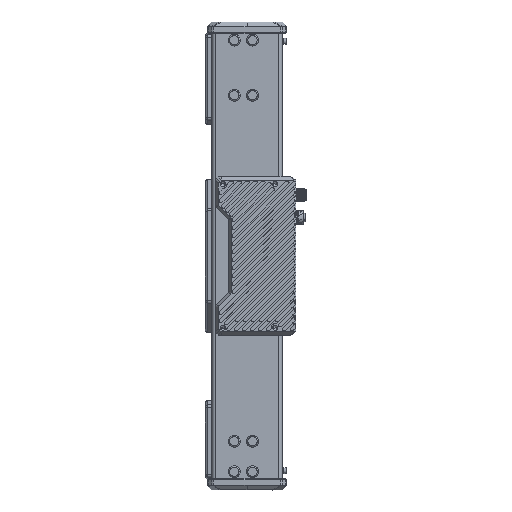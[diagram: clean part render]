
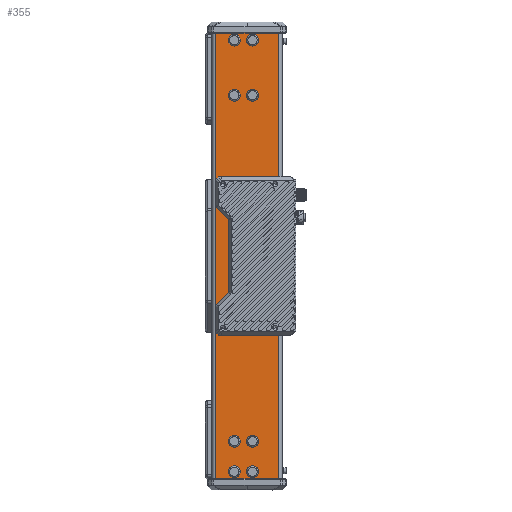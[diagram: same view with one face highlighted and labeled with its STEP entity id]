
A CAD part, top view. The second image highlights one B-rep face of the part: STEP entity #355.
In plain terms, the highlighted planar face has unit normal (0, 0, 1).
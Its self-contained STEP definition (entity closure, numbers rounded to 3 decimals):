
#167=DIRECTION('',(0.,-1.,0.));
#168=VECTOR('',#167,443.);
#169=CARTESIAN_POINT('',(-30.5,221.5,34.5));
#170=LINE('',#169,#168);
#174=DIRECTION('',(1.,0.,0.));
#175=VECTOR('',#174,61.);
#176=CARTESIAN_POINT('',(-30.5,221.5,34.5));
#177=LINE('',#176,#175);
#181=DIRECTION('',(-1.,0.,0.));
#182=VECTOR('',#181,61.);
#183=CARTESIAN_POINT('',(30.5,-221.5,34.5));
#184=LINE('',#183,#182);
#196=DIRECTION('',(0.,1.,0.));
#197=VECTOR('',#196,443.);
#198=CARTESIAN_POINT('',(30.5,-221.5,34.5));
#199=LINE('',#198,#197);
#236=CARTESIAN_POINT('',(-30.5,-221.5,34.5));
#237=VERTEX_POINT('',#236);
#238=CARTESIAN_POINT('',(30.5,-221.5,34.5));
#239=VERTEX_POINT('',#238);
#240=CARTESIAN_POINT('',(30.5,221.5,34.5));
#241=VERTEX_POINT('',#240);
#242=CARTESIAN_POINT('',(-30.5,221.5,34.5));
#243=VERTEX_POINT('',#242);
#341=CARTESIAN_POINT('',(-34.5,-111.5,34.5));
#342=DIRECTION('',(0.,0.,1.));
#343=DIRECTION('',(1.,0.,0.));
#344=AXIS2_PLACEMENT_3D('',#341,#342,#343);
#345=PLANE('',#344);
#346=ORIENTED_EDGE('',*,*,#336,.F.);
#348=ORIENTED_EDGE('',*,*,#347,.T.);
#350=ORIENTED_EDGE('',*,*,#349,.F.);
#352=ORIENTED_EDGE('',*,*,#351,.T.);
#353=EDGE_LOOP('',(#346,#348,#350,#352));
#354=FACE_OUTER_BOUND('',#353,.F.);
#336=EDGE_CURVE('',#243,#237,#170,.T.);
#347=EDGE_CURVE('',#243,#241,#177,.T.);
#349=EDGE_CURVE('',#239,#241,#199,.T.);
#351=EDGE_CURVE('',#239,#237,#184,.T.);
#355=ADVANCED_FACE('',(#354),#345,.T.);
